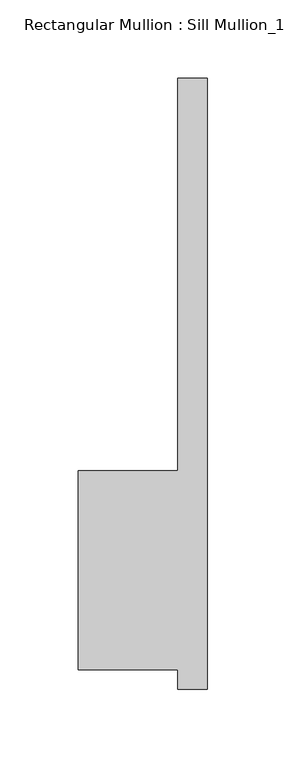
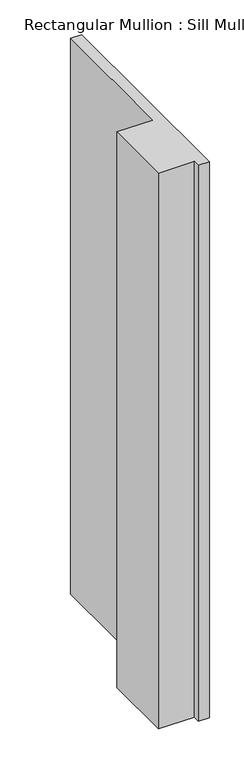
"""IFC4 building model written with IfcOpenShell, lengths in millimetres: member geometry."""

from ifc_helpers import new_model, si_unit, frame, origin, place, context, project, spatial, polyline, outline, extrude, source, transform, mapped, element, save


def member_c5a96b28(model_context):
    return source(origin(), model_context, "Body", "SweptSolid", [
        extrude(outline(polyline([(-82.55, 50.8), (-19.05, 50.8), (-19.05, 301.625), (0.0, 301.625), (0.0, -88.9), (-19.05, -88.9), (-19.05, -76.2), (-82.55, -76.2), (-82.55, 50.8)])), frame((0.0, 0.0, -1036.1083333), z_axis=(0.0, 0.0, 1.0), x_axis=(1.0, 0.0, 0.0)), (0.0, 0.0, 1.0), 1036.1083333),
    ])


if __name__ == "__main__":
    model = new_model("IFC4")
    model_context = context("Model", 3, world=origin())
    ifc_project = project(units=[si_unit("LENGTHUNIT", "METRE", prefix="MILLI")], contexts=[model_context])
    site = spatial("IfcSite", under=ifc_project)
    building = spatial("IfcBuilding", under=site)
    placement = place(None, origin())
    member_shape = member_c5a96b28(model_context)
    element("IfcMember", 1, ObjectType="Rectangular Mullion : Sill Mullion_15\" thick wall", at=placement, inside=building, context=model_context, shape_type="MappedRepresentation", body=[
        mapped(member_shape, transform((0.0, 0.0, 0.0), x_axis=(1.0, 0.0, 0.0), y_axis=(0.0, 1.0, 0.0), z_axis=(0.0, 0.0, 1.0))),
    ])
    save(model, "model.ifc")
